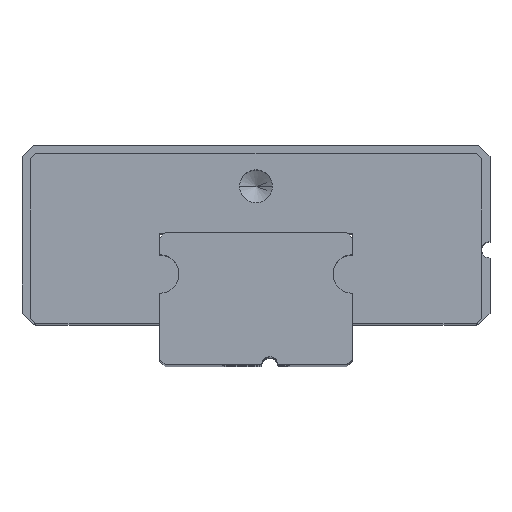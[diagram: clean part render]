
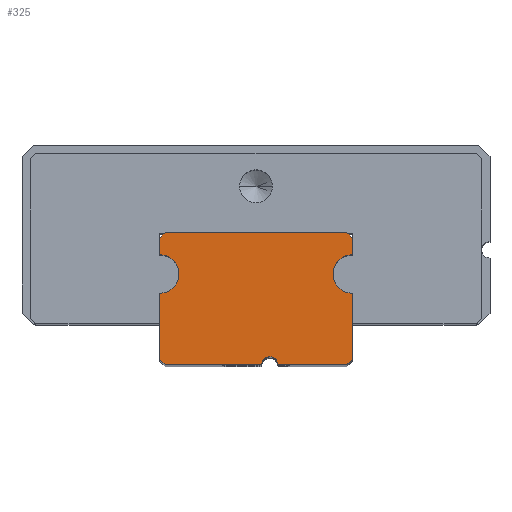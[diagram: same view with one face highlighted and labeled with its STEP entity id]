
A CAD part, top view. The second image highlights one B-rep face of the part: STEP entity #325.
In plain terms, the highlighted planar face has unit normal (0, 0, 1).
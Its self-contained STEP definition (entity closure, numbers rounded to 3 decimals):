
#30 = DIRECTION ( 'NONE',  ( 0., 1., 0. ) ) ;
#47 = LINE ( 'NONE', #1511, #802 ) ;
#89 = LINE ( 'NONE', #1782, #3052 ) ;
#95 = DIRECTION ( 'NONE',  ( 0., 0., -1. ) ) ;
#109 = CARTESIAN_POINT ( 'NONE',  ( 3.5, 2.6, 20. ) ) ;
#133 = VECTOR ( 'NONE', #2681, 1000. ) ;
#134 = CARTESIAN_POINT ( 'NONE',  ( 3.5, 4., 20. ) ) ;
#149 = VECTOR ( 'NONE', #2474, 1000. ) ;
#152 = ORIENTED_EDGE ( 'NONE', *, *, #2760, .F. ) ;
#193 = EDGE_CURVE ( 'NONE', #755, #2330, #2146, .T. ) ;
#199 = VERTEX_POINT ( 'NONE', #723 ) ;
#251 = LINE ( 'NONE', #2643, #2529 ) ;
#292 = LINE ( 'NONE', #2443, #133 ) ;
#294 = ORIENTED_EDGE ( 'NONE', *, *, #2257, .F. ) ;
#297 = ORIENTED_EDGE ( 'NONE', *, *, #2764, .T. ) ;
#301 = CARTESIAN_POINT ( 'NONE',  ( 2.8, 3.3, 20. ) ) ;
#303 = FACE_OUTER_BOUND ( 'NONE', #1334, .T. ) ;
#312 = LINE ( 'NONE', #1289, #2170 ) ;
#322 = ORIENTED_EDGE ( 'NONE', *, *, #2922, .T. ) ;
#325 = ADVANCED_FACE ( 'NONE', ( #303 ), #2473, .F. ) ;
#335 = DIRECTION ( 'NONE',  ( -1., 0., 0. ) ) ;
#365 = CARTESIAN_POINT ( 'NONE',  ( 3.5, 4.6, 20. ) ) ;
#381 = EDGE_CURVE ( 'NONE', #1454, #1411, #638, .T. ) ;
#401 = VECTOR ( 'NONE', #781, 1000. ) ;
#419 = DIRECTION ( 'NONE',  ( -1., 0., 0. ) ) ;
#425 = VERTEX_POINT ( 'NONE', #2333 ) ;
#465 = CARTESIAN_POINT ( 'NONE',  ( -3.3, 4.8, 20. ) ) ;
#482 = AXIS2_PLACEMENT_3D ( 'NONE', #1771, #1538, #989 ) ;
#484 = VECTOR ( 'NONE', #30, 1000. ) ;
#536 = LINE ( 'NONE', #2673, #401 ) ;
#545 = EDGE_CURVE ( 'NONE', #3154, #755, #292, .T. ) ;
#567 = VERTEX_POINT ( 'NONE', #2941 ) ;
#587 = CARTESIAN_POINT ( 'NONE',  ( 3.3, 4.8, 20. ) ) ;
#593 = EDGE_CURVE ( 'NONE', #1642, #2106, #2974, .T. ) ;
#638 = CIRCLE ( 'NONE', #2095, 0.7 ) ;
#648 = DIRECTION ( 'NONE',  ( 0., -1., 0. ) ) ;
#700 = AXIS2_PLACEMENT_3D ( 'NONE', #1739, #2494, #335 ) ;
#703 = VECTOR ( 'NONE', #648, 1000. ) ;
#723 = CARTESIAN_POINT ( 'NONE',  ( -3.3, 0., 20. ) ) ;
#754 = CARTESIAN_POINT ( 'NONE',  ( 3.5, 3.3, 20. ) ) ;
#755 = VERTEX_POINT ( 'NONE', #587 ) ;
#781 = DIRECTION ( 'NONE',  ( 0.707, -0.707, 0. ) ) ;
#802 = VECTOR ( 'NONE', #1557, 1000. ) ;
#877 = DIRECTION ( 'NONE',  ( -0.707, -0.707, 0. ) ) ;
#895 = ORIENTED_EDGE ( 'NONE', *, *, #1306, .F. ) ;
#921 = ORIENTED_EDGE ( 'NONE', *, *, #545, .T. ) ;
#946 = EDGE_CURVE ( 'NONE', #3146, #199, #536, .T. ) ;
#989 = DIRECTION ( 'NONE',  ( -1., 0., 0. ) ) ;
#1026 = LINE ( 'NONE', #1284, #149 ) ;
#1057 = AXIS2_PLACEMENT_3D ( 'NONE', #2139, #2153, #1887 ) ;
#1085 = ORIENTED_EDGE ( 'NONE', *, *, #2821, .T. ) ;
#1110 = VECTOR ( 'NONE', #877, 1000. ) ;
#1139 = ORIENTED_EDGE ( 'NONE', *, *, #381, .T. ) ;
#1189 = VECTOR ( 'NONE', #1894, 1000. ) ;
#1201 = CIRCLE ( 'NONE', #1566, 0.7 ) ;
#1284 = CARTESIAN_POINT ( 'NONE',  ( 3.5, 0.2, 20. ) ) ;
#1289 = CARTESIAN_POINT ( 'NONE',  ( 3.5, 0., 20. ) ) ;
#1306 = EDGE_CURVE ( 'NONE', #3146, #3083, #251, .T. ) ;
#1330 = LINE ( 'NONE', #1814, #1110 ) ;
#1334 = EDGE_LOOP ( 'NONE', ( #895, #1875, #152, #2540, #294, #322, #1654, #1139, #1085, #2371, #921, #1388, #2487, #3114, #297 ) ) ;
#1388 = ORIENTED_EDGE ( 'NONE', *, *, #193, .T. ) ;
#1411 = VERTEX_POINT ( 'NONE', #301 ) ;
#1443 = CARTESIAN_POINT ( 'NONE',  ( 3.3, 0., 20. ) ) ;
#1454 = VERTEX_POINT ( 'NONE', #109 ) ;
#1511 = CARTESIAN_POINT ( 'NONE',  ( 0.5, 0., 20. ) ) ;
#1527 = VERTEX_POINT ( 'NONE', #2082 ) ;
#1528 = EDGE_CURVE ( 'NONE', #2330, #2106, #1330, .T. ) ;
#1538 = DIRECTION ( 'NONE',  ( 0., 0., -1. ) ) ;
#1557 = DIRECTION ( 'NONE',  ( -1., 0., 0. ) ) ;
#1566 = AXIS2_PLACEMENT_3D ( 'NONE', #2270, #95, #3009 ) ;
#1606 = EDGE_CURVE ( 'NONE', #1527, #567, #2427, .T. ) ;
#1633 = CARTESIAN_POINT ( 'NONE',  ( -3.5, 0.2, 20. ) ) ;
#1642 = VERTEX_POINT ( 'NONE', #2652 ) ;
#1654 = ORIENTED_EDGE ( 'NONE', *, *, #2428, .F. ) ;
#1739 = CARTESIAN_POINT ( 'NONE',  ( -3.5, 3.3, 20. ) ) ;
#1751 = DIRECTION ( 'NONE',  ( -1., 0., 0. ) ) ;
#1755 = CARTESIAN_POINT ( 'NONE',  ( -3.5, 0., 20. ) ) ;
#1771 = CARTESIAN_POINT ( 'NONE',  ( 0.5, 0., 20. ) ) ;
#1782 = CARTESIAN_POINT ( 'NONE',  ( 0.5, 0., 20. ) ) ;
#1814 = CARTESIAN_POINT ( 'NONE',  ( -3.5, 4.6, 20. ) ) ;
#1875 = ORIENTED_EDGE ( 'NONE', *, *, #946, .T. ) ;
#1876 = CARTESIAN_POINT ( 'NONE',  ( -3.5, 2.6, 20. ) ) ;
#1880 = CARTESIAN_POINT ( 'NONE',  ( 3.5, 4.8, 20. ) ) ;
#1887 = DIRECTION ( 'NONE',  ( -1., 0., 0. ) ) ;
#1892 = DIRECTION ( 'NONE',  ( 0., 1., 0. ) ) ;
#1894 = DIRECTION ( 'NONE',  ( -1., 0., 0. ) ) ;
#1940 = VERTEX_POINT ( 'NONE', #134 ) ;
#2050 = CARTESIAN_POINT ( 'NONE',  ( 3.5, 0., 20. ) ) ;
#2082 = CARTESIAN_POINT ( 'NONE',  ( 0.2, 0., 20. ) ) ;
#2095 = AXIS2_PLACEMENT_3D ( 'NONE', #754, #2194, #1751 ) ;
#2106 = VERTEX_POINT ( 'NONE', #2246 ) ;
#2139 = CARTESIAN_POINT ( 'NONE',  ( 0.5, 0., 20. ) ) ;
#2146 = LINE ( 'NONE', #1880, #1189 ) ;
#2153 = DIRECTION ( 'NONE',  ( 0., 0., -1. ) ) ;
#2170 = VECTOR ( 'NONE', #2526, 1000. ) ;
#2194 = DIRECTION ( 'NONE',  ( 0., 0., -1. ) ) ;
#2246 = CARTESIAN_POINT ( 'NONE',  ( -3.5, 4.6, 20. ) ) ;
#2257 = EDGE_CURVE ( 'NONE', #2884, #567, #89, .T. ) ;
#2270 = CARTESIAN_POINT ( 'NONE',  ( 3.5, 3.3, 20. ) ) ;
#2330 = VERTEX_POINT ( 'NONE', #465 ) ;
#2333 = CARTESIAN_POINT ( 'NONE',  ( 3.5, 0.2, 20. ) ) ;
#2371 = ORIENTED_EDGE ( 'NONE', *, *, #3056, .F. ) ;
#2423 = CIRCLE ( 'NONE', #700, 0.7 ) ;
#2427 = CIRCLE ( 'NONE', #1057, 0.3 ) ;
#2428 = EDGE_CURVE ( 'NONE', #1454, #425, #312, .T. ) ;
#2443 = CARTESIAN_POINT ( 'NONE',  ( 3.3, 4.8, 20. ) ) ;
#2473 = PLANE ( 'NONE',  #482 ) ;
#2474 = DIRECTION ( 'NONE',  ( 0.707, 0.707, 0. ) ) ;
#2487 = ORIENTED_EDGE ( 'NONE', *, *, #1528, .T. ) ;
#2494 = DIRECTION ( 'NONE',  ( 0., 0., -1. ) ) ;
#2526 = DIRECTION ( 'NONE',  ( 0., -1., 0. ) ) ;
#2529 = VECTOR ( 'NONE', #1892, 1000. ) ;
#2540 = ORIENTED_EDGE ( 'NONE', *, *, #1606, .T. ) ;
#2643 = CARTESIAN_POINT ( 'NONE',  ( -3.5, 0., 20. ) ) ;
#2652 = CARTESIAN_POINT ( 'NONE',  ( -3.5, 4., 20. ) ) ;
#2673 = CARTESIAN_POINT ( 'NONE',  ( -3.3, 0., 20. ) ) ;
#2681 = DIRECTION ( 'NONE',  ( -0.707, 0.707, 0. ) ) ;
#2760 = EDGE_CURVE ( 'NONE', #1527, #199, #47, .T. ) ;
#2764 = EDGE_CURVE ( 'NONE', #1642, #3083, #2423, .T. ) ;
#2808 = LINE ( 'NONE', #2050, #703 ) ;
#2821 = EDGE_CURVE ( 'NONE', #1411, #1940, #1201, .T. ) ;
#2884 = VERTEX_POINT ( 'NONE', #1443 ) ;
#2922 = EDGE_CURVE ( 'NONE', #2884, #425, #1026, .T. ) ;
#2941 = CARTESIAN_POINT ( 'NONE',  ( 0.8, 0., 20. ) ) ;
#2974 = LINE ( 'NONE', #1755, #484 ) ;
#3009 = DIRECTION ( 'NONE',  ( -1., 0., 0. ) ) ;
#3052 = VECTOR ( 'NONE', #419, 1000. ) ;
#3056 = EDGE_CURVE ( 'NONE', #3154, #1940, #2808, .T. ) ;
#3083 = VERTEX_POINT ( 'NONE', #1876 ) ;
#3114 = ORIENTED_EDGE ( 'NONE', *, *, #593, .F. ) ;
#3146 = VERTEX_POINT ( 'NONE', #1633 ) ;
#3154 = VERTEX_POINT ( 'NONE', #365 ) ;
